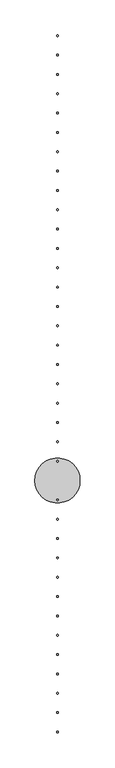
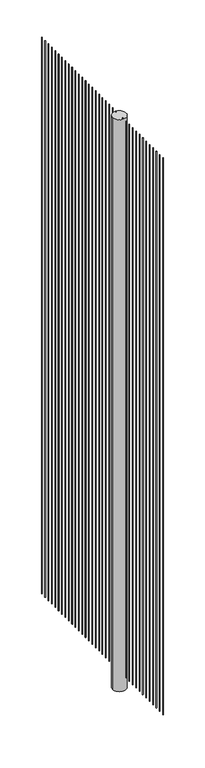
"""IFC4 building model written with IfcOpenShell, lengths in millimetres: railing geometry, Zaun."""

from ifc_helpers import new_model, si_unit, point, frame, frame_2d, origin, origin_with_axes, place, context, project, spatial, circle_curve, trimmed, segment, composite_curve, outline, extrude, source, transform, mapped, element, save


def railing_6865458b(model_context):
    return source(origin(), model_context, "Body", "SweptSolid", [
        extrude(outline(composite_curve([segment(trimmed(circle_curve(frame_2d((46777.9264557, -33134.5254602)), 1.5), [point((46776.4264557, -33134.5254602))], [point((46779.4264557, -33134.5254602))], False, "CARTESIAN"), True, "CONTINUOUS"), segment(trimmed(circle_curve(frame_2d((46777.9264557, -33134.5254602)), 1.5), [point((46779.4264557, -33134.5254602))], [point((46776.4264557, -33134.5254602))], False, "CARTESIAN"), True, "CONTINUOUS")], self_intersect=False)), frame((0.0, 0.0, 100.0), z_axis=(0.0, 0.0, 1.0), x_axis=(1.0, 0.0, 0.0)), (0.0, 0.0, 1.0), 3450.0),
        extrude(outline(composite_curve([segment(trimmed(circle_curve(frame_2d((46777.9264557, -33168.8391857)), 1.5), [point((46776.4264557, -33168.8391857))], [point((46779.4264557, -33168.8391857))], False, "CARTESIAN"), True, "CONTINUOUS"), segment(trimmed(circle_curve(frame_2d((46777.9264557, -33168.8391857)), 1.5), [point((46779.4264557, -33168.8391857))], [point((46776.4264557, -33168.8391857))], False, "CARTESIAN"), True, "CONTINUOUS")], self_intersect=False)), frame((0.0, 0.0, 100.0), z_axis=(0.0, 0.0, 1.0), x_axis=(1.0, 0.0, 0.0)), (0.0, 0.0, 1.0), 3450.0),
        extrude(outline(composite_curve([segment(trimmed(circle_curve(frame_2d((46777.9264557, -33203.1529112)), 1.5), [point((46776.4264557, -33203.1529112))], [point((46779.4264557, -33203.1529112))], False, "CARTESIAN"), True, "CONTINUOUS"), segment(trimmed(circle_curve(frame_2d((46777.9264557, -33203.1529112)), 1.5), [point((46779.4264557, -33203.1529112))], [point((46776.4264557, -33203.1529112))], False, "CARTESIAN"), True, "CONTINUOUS")], self_intersect=False)), frame((0.0, 0.0, 100.0), z_axis=(0.0, 0.0, 1.0), x_axis=(1.0, 0.0, 0.0)), (0.0, 0.0, 1.0), 3450.0),
        extrude(outline(composite_curve([segment(trimmed(circle_curve(frame_2d((46777.9264557, -33237.4666367)), 1.5), [point((46776.4264557, -33237.4666367))], [point((46779.4264557, -33237.4666367))], False, "CARTESIAN"), True, "CONTINUOUS"), segment(trimmed(circle_curve(frame_2d((46777.9264557, -33237.4666367)), 1.5), [point((46779.4264557, -33237.4666367))], [point((46776.4264557, -33237.4666367))], False, "CARTESIAN"), True, "CONTINUOUS")], self_intersect=False)), frame((0.0, 0.0, 100.0), z_axis=(0.0, 0.0, 1.0), x_axis=(1.0, 0.0, 0.0)), (0.0, 0.0, 1.0), 3450.0),
        extrude(outline(composite_curve([segment(trimmed(circle_curve(frame_2d((46777.9264557, -33271.7803622)), 1.5), [point((46776.4264557, -33271.7803622))], [point((46779.4264557, -33271.7803622))], False, "CARTESIAN"), True, "CONTINUOUS"), segment(trimmed(circle_curve(frame_2d((46777.9264557, -33271.7803622)), 1.5), [point((46779.4264557, -33271.7803622))], [point((46776.4264557, -33271.7803622))], False, "CARTESIAN"), True, "CONTINUOUS")], self_intersect=False)), frame((0.0, 0.0, 100.0), z_axis=(0.0, 0.0, 1.0), x_axis=(1.0, 0.0, 0.0)), (0.0, 0.0, 1.0), 3450.0),
        extrude(outline(composite_curve([segment(trimmed(circle_curve(frame_2d((46777.9264557, -33306.0940877)), 1.5), [point((46776.4264557, -33306.0940877))], [point((46779.4264557, -33306.0940877))], False, "CARTESIAN"), True, "CONTINUOUS"), segment(trimmed(circle_curve(frame_2d((46777.9264557, -33306.0940877)), 1.5), [point((46779.4264557, -33306.0940877))], [point((46776.4264557, -33306.0940877))], False, "CARTESIAN"), True, "CONTINUOUS")], self_intersect=False)), frame((0.0, 0.0, 100.0), z_axis=(0.0, 0.0, 1.0), x_axis=(1.0, 0.0, 0.0)), (0.0, 0.0, 1.0), 3450.0),
        extrude(outline(composite_curve([segment(trimmed(circle_curve(frame_2d((46777.9264557, -33340.4078132)), 1.5), [point((46776.4264557, -33340.4078132))], [point((46779.4264557, -33340.4078132))], False, "CARTESIAN"), True, "CONTINUOUS"), segment(trimmed(circle_curve(frame_2d((46777.9264557, -33340.4078132)), 1.5), [point((46779.4264557, -33340.4078132))], [point((46776.4264557, -33340.4078132))], False, "CARTESIAN"), True, "CONTINUOUS")], self_intersect=False)), frame((0.0, 0.0, 100.0), z_axis=(0.0, 0.0, 1.0), x_axis=(1.0, 0.0, 0.0)), (0.0, 0.0, 1.0), 3450.0),
        extrude(outline(composite_curve([segment(trimmed(circle_curve(frame_2d((46777.9264557, -33374.7215387)), 1.5), [point((46776.4264557, -33374.7215387))], [point((46779.4264557, -33374.7215387))], False, "CARTESIAN"), True, "CONTINUOUS"), segment(trimmed(circle_curve(frame_2d((46777.9264557, -33374.7215387)), 1.5), [point((46779.4264557, -33374.7215387))], [point((46776.4264557, -33374.7215387))], False, "CARTESIAN"), True, "CONTINUOUS")], self_intersect=False)), frame((0.0, 0.0, 100.0), z_axis=(0.0, 0.0, 1.0), x_axis=(1.0, 0.0, 0.0)), (0.0, 0.0, 1.0), 3450.0),
        extrude(outline(composite_curve([segment(trimmed(circle_curve(frame_2d((46777.9264557, -33409.0352642)), 1.5), [point((46776.4264557, -33409.0352642))], [point((46779.4264557, -33409.0352642))], False, "CARTESIAN"), True, "CONTINUOUS"), segment(trimmed(circle_curve(frame_2d((46777.9264557, -33409.0352642)), 1.5), [point((46779.4264557, -33409.0352642))], [point((46776.4264557, -33409.0352642))], False, "CARTESIAN"), True, "CONTINUOUS")], self_intersect=False)), frame((0.0, 0.0, 100.0), z_axis=(0.0, 0.0, 1.0), x_axis=(1.0, 0.0, 0.0)), (0.0, 0.0, 1.0), 3450.0),
        extrude(outline(composite_curve([segment(trimmed(circle_curve(frame_2d((46777.9264557, -33443.3489896)), 1.5), [point((46776.4264557, -33443.3489896))], [point((46779.4264557, -33443.3489896))], False, "CARTESIAN"), True, "CONTINUOUS"), segment(trimmed(circle_curve(frame_2d((46777.9264557, -33443.3489896)), 1.5), [point((46779.4264557, -33443.3489896))], [point((46776.4264557, -33443.3489896))], False, "CARTESIAN"), True, "CONTINUOUS")], self_intersect=False)), frame((0.0, 0.0, 100.0), z_axis=(0.0, 0.0, 1.0), x_axis=(1.0, 0.0, 0.0)), (0.0, 0.0, 1.0), 3450.0),
        extrude(outline(composite_curve([segment(trimmed(circle_curve(frame_2d((46777.9264557, -33477.6627151)), 1.5), [point((46776.4264557, -33477.6627151))], [point((46779.4264557, -33477.6627151))], False, "CARTESIAN"), True, "CONTINUOUS"), segment(trimmed(circle_curve(frame_2d((46777.9264557, -33477.6627151)), 1.5), [point((46779.4264557, -33477.6627151))], [point((46776.4264557, -33477.6627151))], False, "CARTESIAN"), True, "CONTINUOUS")], self_intersect=False)), frame((0.0, 0.0, 100.0), z_axis=(0.0, 0.0, 1.0), x_axis=(1.0, 0.0, 0.0)), (0.0, 0.0, 1.0), 3450.0),
        extrude(outline(composite_curve([segment(trimmed(circle_curve(frame_2d((46777.9264557, -33511.9764406)), 1.5), [point((46776.4264557, -33511.9764406))], [point((46779.4264557, -33511.9764406))], False, "CARTESIAN"), True, "CONTINUOUS"), segment(trimmed(circle_curve(frame_2d((46777.9264557, -33511.9764406)), 1.5), [point((46779.4264557, -33511.9764406))], [point((46776.4264557, -33511.9764406))], False, "CARTESIAN"), True, "CONTINUOUS")], self_intersect=False)), frame((0.0, 0.0, 100.0), z_axis=(0.0, 0.0, 1.0), x_axis=(1.0, 0.0, 0.0)), (0.0, 0.0, 1.0), 3450.0),
        extrude(outline(composite_curve([segment(trimmed(circle_curve(frame_2d((46777.9264557, -33546.2901661)), 1.5), [point((46776.4264557, -33546.2901661))], [point((46779.4264557, -33546.2901661))], False, "CARTESIAN"), True, "CONTINUOUS"), segment(trimmed(circle_curve(frame_2d((46777.9264557, -33546.2901661)), 1.5), [point((46779.4264557, -33546.2901661))], [point((46776.4264557, -33546.2901661))], False, "CARTESIAN"), True, "CONTINUOUS")], self_intersect=False)), frame((0.0, 0.0, 100.0), z_axis=(0.0, 0.0, 1.0), x_axis=(1.0, 0.0, 0.0)), (0.0, 0.0, 1.0), 3450.0),
        extrude(outline(composite_curve([segment(trimmed(circle_curve(frame_2d((46777.9264557, -33580.6038916)), 1.5), [point((46776.4264557, -33580.6038916))], [point((46779.4264557, -33580.6038916))], False, "CARTESIAN"), True, "CONTINUOUS"), segment(trimmed(circle_curve(frame_2d((46777.9264557, -33580.6038916)), 1.5), [point((46779.4264557, -33580.6038916))], [point((46776.4264557, -33580.6038916))], False, "CARTESIAN"), True, "CONTINUOUS")], self_intersect=False)), frame((0.0, 0.0, 100.0), z_axis=(0.0, 0.0, 1.0), x_axis=(1.0, 0.0, 0.0)), (0.0, 0.0, 1.0), 3450.0),
        extrude(outline(composite_curve([segment(trimmed(circle_curve(frame_2d((46777.9264557, -33614.9176171)), 1.5), [point((46776.4264557, -33614.9176171))], [point((46779.4264557, -33614.9176171))], False, "CARTESIAN"), True, "CONTINUOUS"), segment(trimmed(circle_curve(frame_2d((46777.9264557, -33614.9176171)), 1.5), [point((46779.4264557, -33614.9176171))], [point((46776.4264557, -33614.9176171))], False, "CARTESIAN"), True, "CONTINUOUS")], self_intersect=False)), frame((0.0, 0.0, 100.0), z_axis=(0.0, 0.0, 1.0), x_axis=(1.0, 0.0, 0.0)), (0.0, 0.0, 1.0), 3450.0),
        extrude(outline(composite_curve([segment(trimmed(circle_curve(frame_2d((46777.9264557, -33649.2313426)), 1.5), [point((46776.4264557, -33649.2313426))], [point((46779.4264557, -33649.2313426))], False, "CARTESIAN"), True, "CONTINUOUS"), segment(trimmed(circle_curve(frame_2d((46777.9264557, -33649.2313426)), 1.5), [point((46779.4264557, -33649.2313426))], [point((46776.4264557, -33649.2313426))], False, "CARTESIAN"), True, "CONTINUOUS")], self_intersect=False)), frame((0.0, 0.0, 100.0), z_axis=(0.0, 0.0, 1.0), x_axis=(1.0, 0.0, 0.0)), (0.0, 0.0, 1.0), 3450.0),
        extrude(outline(composite_curve([segment(trimmed(circle_curve(frame_2d((46777.9264557, -33683.5450681)), 1.5), [point((46776.4264557, -33683.5450681))], [point((46779.4264557, -33683.5450681))], False, "CARTESIAN"), True, "CONTINUOUS"), segment(trimmed(circle_curve(frame_2d((46777.9264557, -33683.5450681)), 1.5), [point((46779.4264557, -33683.5450681))], [point((46776.4264557, -33683.5450681))], False, "CARTESIAN"), True, "CONTINUOUS")], self_intersect=False)), frame((0.0, 0.0, 100.0), z_axis=(0.0, 0.0, 1.0), x_axis=(1.0, 0.0, 0.0)), (0.0, 0.0, 1.0), 3450.0),
        extrude(outline(composite_curve([segment(trimmed(circle_curve(frame_2d((46777.9264557, -33717.8587936)), 1.5), [point((46776.4264557, -33717.8587936))], [point((46779.4264557, -33717.8587936))], False, "CARTESIAN"), True, "CONTINUOUS"), segment(trimmed(circle_curve(frame_2d((46777.9264557, -33717.8587936)), 1.5), [point((46779.4264557, -33717.8587936))], [point((46776.4264557, -33717.8587936))], False, "CARTESIAN"), True, "CONTINUOUS")], self_intersect=False)), frame((0.0, 0.0, 100.0), z_axis=(0.0, 0.0, 1.0), x_axis=(1.0, 0.0, 0.0)), (0.0, 0.0, 1.0), 3450.0),
        extrude(outline(composite_curve([segment(trimmed(circle_curve(frame_2d((46777.9264557, -33752.1725191)), 1.5), [point((46776.4264557, -33752.1725191))], [point((46779.4264557, -33752.1725191))], False, "CARTESIAN"), True, "CONTINUOUS"), segment(trimmed(circle_curve(frame_2d((46777.9264557, -33752.1725191)), 1.5), [point((46779.4264557, -33752.1725191))], [point((46776.4264557, -33752.1725191))], False, "CARTESIAN"), True, "CONTINUOUS")], self_intersect=False)), frame((0.0, 0.0, 100.0), z_axis=(0.0, 0.0, 1.0), x_axis=(1.0, 0.0, 0.0)), (0.0, 0.0, 1.0), 3450.0),
        extrude(outline(composite_curve([segment(trimmed(circle_curve(frame_2d((46777.9264557, -33786.4862445)), 1.5), [point((46776.4264557, -33786.4862445))], [point((46779.4264557, -33786.4862445))], False, "CARTESIAN"), True, "CONTINUOUS"), segment(trimmed(circle_curve(frame_2d((46777.9264557, -33786.4862445)), 1.5), [point((46779.4264557, -33786.4862445))], [point((46776.4264557, -33786.4862445))], False, "CARTESIAN"), True, "CONTINUOUS")], self_intersect=False)), frame((0.0, 0.0, 100.0), z_axis=(0.0, 0.0, 1.0), x_axis=(1.0, 0.0, 0.0)), (0.0, 0.0, 1.0), 3450.0),
        extrude(outline(composite_curve([segment(trimmed(circle_curve(frame_2d((46777.9264557, -33820.79997)), 1.5), [point((46776.4264557, -33820.79997))], [point((46779.4264557, -33820.79997))], False, "CARTESIAN"), True, "CONTINUOUS"), segment(trimmed(circle_curve(frame_2d((46777.9264557, -33820.79997)), 1.5), [point((46779.4264557, -33820.79997))], [point((46776.4264557, -33820.79997))], False, "CARTESIAN"), True, "CONTINUOUS")], self_intersect=False)), frame((0.0, 0.0, 100.0), z_axis=(0.0, 0.0, 1.0), x_axis=(1.0, 0.0, 0.0)), (0.0, 0.0, 1.0), 3450.0),
        extrude(outline(composite_curve([segment(trimmed(circle_curve(frame_2d((46777.9264557, -33855.1136955)), 1.5), [point((46776.4264557, -33855.1136955))], [point((46779.4264557, -33855.1136955))], False, "CARTESIAN"), True, "CONTINUOUS"), segment(trimmed(circle_curve(frame_2d((46777.9264557, -33855.1136955)), 1.5), [point((46779.4264557, -33855.1136955))], [point((46776.4264557, -33855.1136955))], False, "CARTESIAN"), True, "CONTINUOUS")], self_intersect=False)), frame((0.0, 0.0, 100.0), z_axis=(0.0, 0.0, 1.0), x_axis=(1.0, 0.0, 0.0)), (0.0, 0.0, 1.0), 3450.0),
        extrude(outline(composite_curve([segment(trimmed(circle_curve(frame_2d((46777.9264557, -33889.427421)), 1.5), [point((46776.4264557, -33889.427421))], [point((46779.4264557, -33889.427421))], False, "CARTESIAN"), True, "CONTINUOUS"), segment(trimmed(circle_curve(frame_2d((46777.9264557, -33889.427421)), 1.5), [point((46779.4264557, -33889.427421))], [point((46776.4264557, -33889.427421))], False, "CARTESIAN"), True, "CONTINUOUS")], self_intersect=False)), frame((0.0, 0.0, 100.0), z_axis=(0.0, 0.0, 1.0), x_axis=(1.0, 0.0, 0.0)), (0.0, 0.0, 1.0), 3450.0),
        extrude(outline(composite_curve([segment(trimmed(circle_curve(frame_2d((46777.9264557, -33923.7411465)), 40.0), [point((46737.9264557, -33923.7411465))], [point((46817.9264557, -33923.7411465))], False, "CARTESIAN"), True, "CONTINUOUS"), segment(trimmed(circle_curve(frame_2d((46777.9264557, -33923.7411465)), 40.0), [point((46817.9264557, -33923.7411465))], [point((46737.9264557, -33923.7411465))], False, "CARTESIAN"), True, "CONTINUOUS")], self_intersect=False)), origin_with_axes(), (0.0, 0.0, 1.0), 3545.0),
        extrude(outline(composite_curve([segment(trimmed(circle_curve(frame_2d((46777.9264557, -33958.054872)), 1.5), [point((46776.4264557, -33958.054872))], [point((46779.4264557, -33958.054872))], False, "CARTESIAN"), True, "CONTINUOUS"), segment(trimmed(circle_curve(frame_2d((46777.9264557, -33958.054872)), 1.5), [point((46779.4264557, -33958.054872))], [point((46776.4264557, -33958.054872))], False, "CARTESIAN"), True, "CONTINUOUS")], self_intersect=False)), frame((0.0, 0.0, 100.0), z_axis=(0.0, 0.0, 1.0), x_axis=(1.0, 0.0, 0.0)), (0.0, 0.0, 1.0), 3450.0),
        extrude(outline(composite_curve([segment(trimmed(circle_curve(frame_2d((46777.9264557, -33992.3685975)), 1.5), [point((46776.4264557, -33992.3685975))], [point((46779.4264557, -33992.3685975))], False, "CARTESIAN"), True, "CONTINUOUS"), segment(trimmed(circle_curve(frame_2d((46777.9264557, -33992.3685975)), 1.5), [point((46779.4264557, -33992.3685975))], [point((46776.4264557, -33992.3685975))], False, "CARTESIAN"), True, "CONTINUOUS")], self_intersect=False)), frame((0.0, 0.0, 100.0), z_axis=(0.0, 0.0, 1.0), x_axis=(1.0, 0.0, 0.0)), (0.0, 0.0, 1.0), 3450.0),
        extrude(outline(composite_curve([segment(trimmed(circle_curve(frame_2d((46777.9264557, -34026.682323)), 1.5), [point((46776.4264557, -34026.682323))], [point((46779.4264557, -34026.682323))], False, "CARTESIAN"), True, "CONTINUOUS"), segment(trimmed(circle_curve(frame_2d((46777.9264557, -34026.682323)), 1.5), [point((46779.4264557, -34026.682323))], [point((46776.4264557, -34026.682323))], False, "CARTESIAN"), True, "CONTINUOUS")], self_intersect=False)), frame((0.0, 0.0, 100.0), z_axis=(0.0, 0.0, 1.0), x_axis=(1.0, 0.0, 0.0)), (0.0, 0.0, 1.0), 3450.0),
        extrude(outline(composite_curve([segment(trimmed(circle_curve(frame_2d((46777.9264557, -34060.9960485)), 1.5), [point((46776.4264557, -34060.9960485))], [point((46779.4264557, -34060.9960485))], False, "CARTESIAN"), True, "CONTINUOUS"), segment(trimmed(circle_curve(frame_2d((46777.9264557, -34060.9960485)), 1.5), [point((46779.4264557, -34060.9960485))], [point((46776.4264557, -34060.9960485))], False, "CARTESIAN"), True, "CONTINUOUS")], self_intersect=False)), frame((0.0, 0.0, 100.0), z_axis=(0.0, 0.0, 1.0), x_axis=(1.0, 0.0, 0.0)), (0.0, 0.0, 1.0), 3450.0),
        extrude(outline(composite_curve([segment(trimmed(circle_curve(frame_2d((46777.9264557, -34095.309774)), 1.5), [point((46776.4264557, -34095.309774))], [point((46779.4264557, -34095.309774))], False, "CARTESIAN"), True, "CONTINUOUS"), segment(trimmed(circle_curve(frame_2d((46777.9264557, -34095.309774)), 1.5), [point((46779.4264557, -34095.309774))], [point((46776.4264557, -34095.309774))], False, "CARTESIAN"), True, "CONTINUOUS")], self_intersect=False)), frame((0.0, 0.0, 100.0), z_axis=(0.0, 0.0, 1.0), x_axis=(1.0, 0.0, 0.0)), (0.0, 0.0, 1.0), 3450.0),
        extrude(outline(composite_curve([segment(trimmed(circle_curve(frame_2d((46777.9264557, -34129.6234994)), 1.5), [point((46776.4264557, -34129.6234994))], [point((46779.4264557, -34129.6234994))], False, "CARTESIAN"), True, "CONTINUOUS"), segment(trimmed(circle_curve(frame_2d((46777.9264557, -34129.6234994)), 1.5), [point((46779.4264557, -34129.6234994))], [point((46776.4264557, -34129.6234994))], False, "CARTESIAN"), True, "CONTINUOUS")], self_intersect=False)), frame((0.0, 0.0, 100.0), z_axis=(0.0, 0.0, 1.0), x_axis=(1.0, 0.0, 0.0)), (0.0, 0.0, 1.0), 3450.0),
        extrude(outline(composite_curve([segment(trimmed(circle_curve(frame_2d((46777.9264557, -34163.9372249)), 1.5), [point((46776.4264557, -34163.9372249))], [point((46779.4264557, -34163.9372249))], False, "CARTESIAN"), True, "CONTINUOUS"), segment(trimmed(circle_curve(frame_2d((46777.9264557, -34163.9372249)), 1.5), [point((46779.4264557, -34163.9372249))], [point((46776.4264557, -34163.9372249))], False, "CARTESIAN"), True, "CONTINUOUS")], self_intersect=False)), frame((0.0, 0.0, 100.0), z_axis=(0.0, 0.0, 1.0), x_axis=(1.0, 0.0, 0.0)), (0.0, 0.0, 1.0), 3450.0),
        extrude(outline(composite_curve([segment(trimmed(circle_curve(frame_2d((46777.9264557, -34198.2509504)), 1.5), [point((46776.4264557, -34198.2509504))], [point((46779.4264557, -34198.2509504))], False, "CARTESIAN"), True, "CONTINUOUS"), segment(trimmed(circle_curve(frame_2d((46777.9264557, -34198.2509504)), 1.5), [point((46779.4264557, -34198.2509504))], [point((46776.4264557, -34198.2509504))], False, "CARTESIAN"), True, "CONTINUOUS")], self_intersect=False)), frame((0.0, 0.0, 100.0), z_axis=(0.0, 0.0, 1.0), x_axis=(1.0, 0.0, 0.0)), (0.0, 0.0, 1.0), 3450.0),
        extrude(outline(composite_curve([segment(trimmed(circle_curve(frame_2d((46777.9264557, -34232.5646759)), 1.5), [point((46776.4264557, -34232.5646759))], [point((46779.4264557, -34232.5646759))], False, "CARTESIAN"), True, "CONTINUOUS"), segment(trimmed(circle_curve(frame_2d((46777.9264557, -34232.5646759)), 1.5), [point((46779.4264557, -34232.5646759))], [point((46776.4264557, -34232.5646759))], False, "CARTESIAN"), True, "CONTINUOUS")], self_intersect=False)), frame((0.0, 0.0, 100.0), z_axis=(0.0, 0.0, 1.0), x_axis=(1.0, 0.0, 0.0)), (0.0, 0.0, 1.0), 3450.0),
        extrude(outline(composite_curve([segment(trimmed(circle_curve(frame_2d((46777.9264557, -34266.8784014)), 1.5), [point((46776.4264557, -34266.8784014))], [point((46779.4264557, -34266.8784014))], False, "CARTESIAN"), True, "CONTINUOUS"), segment(trimmed(circle_curve(frame_2d((46777.9264557, -34266.8784014)), 1.5), [point((46779.4264557, -34266.8784014))], [point((46776.4264557, -34266.8784014))], False, "CARTESIAN"), True, "CONTINUOUS")], self_intersect=False)), frame((0.0, 0.0, 100.0), z_axis=(0.0, 0.0, 1.0), x_axis=(1.0, 0.0, 0.0)), (0.0, 0.0, 1.0), 3450.0),
        extrude(outline(composite_curve([segment(trimmed(circle_curve(frame_2d((46777.9264557, -34301.1921269)), 1.5), [point((46776.4264557, -34301.1921269))], [point((46779.4264557, -34301.1921269))], False, "CARTESIAN"), True, "CONTINUOUS"), segment(trimmed(circle_curve(frame_2d((46777.9264557, -34301.1921269)), 1.5), [point((46779.4264557, -34301.1921269))], [point((46776.4264557, -34301.1921269))], False, "CARTESIAN"), True, "CONTINUOUS")], self_intersect=False)), frame((0.0, 0.0, 100.0), z_axis=(0.0, 0.0, 1.0), x_axis=(1.0, 0.0, 0.0)), (0.0, 0.0, 1.0), 3450.0),
        extrude(outline(composite_curve([segment(trimmed(circle_curve(frame_2d((46777.9264557, -34335.5058524)), 1.5), [point((46776.4264557, -34335.5058524))], [point((46779.4264557, -34335.5058524))], False, "CARTESIAN"), True, "CONTINUOUS"), segment(trimmed(circle_curve(frame_2d((46777.9264557, -34335.5058524)), 1.5), [point((46779.4264557, -34335.5058524))], [point((46776.4264557, -34335.5058524))], False, "CARTESIAN"), True, "CONTINUOUS")], self_intersect=False)), frame((0.0, 0.0, 100.0), z_axis=(0.0, 0.0, 1.0), x_axis=(1.0, 0.0, 0.0)), (0.0, 0.0, 1.0), 3450.0),
        extrude(outline(composite_curve([segment(trimmed(circle_curve(frame_2d((46777.9264557, -34369.8195779)), 1.5), [point((46776.4264557, -34369.8195779))], [point((46779.4264557, -34369.8195779))], False, "CARTESIAN"), True, "CONTINUOUS"), segment(trimmed(circle_curve(frame_2d((46777.9264557, -34369.8195779)), 1.5), [point((46779.4264557, -34369.8195779))], [point((46776.4264557, -34369.8195779))], False, "CARTESIAN"), True, "CONTINUOUS")], self_intersect=False)), frame((0.0, 0.0, 100.0), z_axis=(0.0, 0.0, 1.0), x_axis=(1.0, 0.0, 0.0)), (0.0, 0.0, 1.0), 3450.0),
    ])


if __name__ == "__main__":
    model = new_model("IFC4")
    model_context = context("Model", 3, world=origin())
    ifc_project = project(units=[si_unit("LENGTHUNIT", "METRE", prefix="MILLI")], contexts=[model_context])
    site = spatial("IfcSite", under=ifc_project)
    building = spatial("IfcBuilding", under=site)
    placement = place(None, origin())
    railing_shape = railing_6865458b(model_context)
    element("IfcRailing", 1, ObjectType="Zaun", at=placement, inside=building, context=model_context, shape_type="MappedRepresentation", body=[
        mapped(railing_shape, transform((0.0, 0.0, 0.0), x_axis=(1.0, 0.0, 0.0), y_axis=(0.0, 1.0, 0.0), z_axis=(0.0, 0.0, 1.0))),
    ])
    save(model, "model.ifc")
